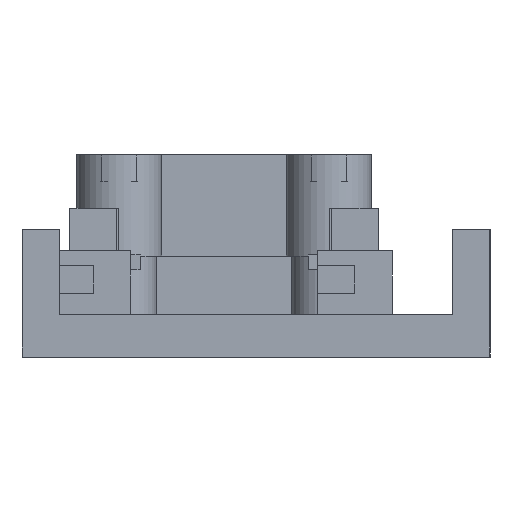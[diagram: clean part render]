
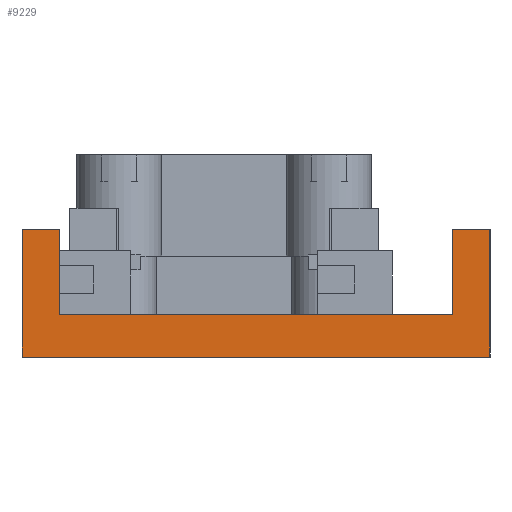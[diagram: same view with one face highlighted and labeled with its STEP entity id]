
A CAD part, left-side view. The second image highlights one B-rep face of the part: STEP entity #9229.
In plain terms, the highlighted planar face has unit normal (-1, 0, 0).
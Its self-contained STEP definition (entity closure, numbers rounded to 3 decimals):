
#52 = VERTEX_POINT('',#53);
#53 = CARTESIAN_POINT('',(-51.5,-1.1,0.));
#62 = PLANE('',#63);
#63 = AXIS2_PLACEMENT_3D('',#64,#65,#66);
#64 = CARTESIAN_POINT('',(-36.613,-1.1,0.));
#65 = DIRECTION('',(-0.,1.,0.));
#66 = DIRECTION('',(0.,0.,1.));
#74 = PLANE('',#75);
#75 = AXIS2_PLACEMENT_3D('',#76,#77,#78);
#76 = CARTESIAN_POINT('',(-36.613,-1.1,0.));
#77 = DIRECTION('',(0.,0.,1.));
#78 = DIRECTION('',(1.,0.,-0.));
#86 = EDGE_CURVE('',#87,#52,#89,.T.);
#87 = VERTEX_POINT('',#88);
#88 = CARTESIAN_POINT('',(-51.5,-1.1,12.));
#89 = SURFACE_CURVE('',#90,(#94,#101),.PCURVE_S1.);
#90 = LINE('',#91,#92);
#91 = CARTESIAN_POINT('',(-51.5,-1.1,12.));
#92 = VECTOR('',#93,1.);
#93 = DIRECTION('',(0.,0.,-1.));
#94 = PCURVE('',#62,#95);
#95 = DEFINITIONAL_REPRESENTATION('',(#96),#100);
#96 = LINE('',#97,#98);
#97 = CARTESIAN_POINT('',(12.,-14.888));
#98 = VECTOR('',#99,1.);
#99 = DIRECTION('',(-1.,0.));
#100 = ( GEOMETRIC_REPRESENTATION_CONTEXT(2) 
PARAMETRIC_REPRESENTATION_CONTEXT() REPRESENTATION_CONTEXT('2D SPACE',''
  ) );
#101 = PCURVE('',#102,#107);
#102 = PLANE('',#103);
#103 = AXIS2_PLACEMENT_3D('',#104,#105,#106);
#104 = CARTESIAN_POINT('',(-51.5,-1.1,0.));
#105 = DIRECTION('',(1.,0.,-0.));
#106 = DIRECTION('',(0.,0.,1.));
#107 = DEFINITIONAL_REPRESENTATION('',(#108),#112);
#108 = LINE('',#109,#110);
#109 = CARTESIAN_POINT('',(12.,0.));
#110 = VECTOR('',#111,1.);
#111 = DIRECTION('',(-1.,0.));
#112 = ( GEOMETRIC_REPRESENTATION_CONTEXT(2) 
PARAMETRIC_REPRESENTATION_CONTEXT() REPRESENTATION_CONTEXT('2D SPACE',''
  ) );
#130 = PLANE('',#131);
#131 = AXIS2_PLACEMENT_3D('',#132,#133,#134);
#132 = CARTESIAN_POINT('',(-36.613,-1.1,12.));
#133 = DIRECTION('',(0.,0.,1.));
#134 = DIRECTION('',(1.,0.,-0.));
#186 = PLANE('',#187);
#187 = AXIS2_PLACEMENT_3D('',#188,#189,#190);
#188 = CARTESIAN_POINT('',(-51.5,-1.1,4.));
#189 = DIRECTION('',(0.,0.,1.));
#190 = DIRECTION('',(1.,0.,-0.));
#228 = VERTEX_POINT('',#229);
#229 = CARTESIAN_POINT('',(-51.5,42.9,0.));
#245 = PLANE('',#246);
#246 = AXIS2_PLACEMENT_3D('',#247,#248,#249);
#247 = CARTESIAN_POINT('',(-36.613,42.9,0.));
#248 = DIRECTION('',(-0.,1.,0.));
#249 = DIRECTION('',(0.,0.,1.));
#257 = EDGE_CURVE('',#52,#228,#258,.T.);
#258 = SURFACE_CURVE('',#259,(#263,#270),.PCURVE_S1.);
#259 = LINE('',#260,#261);
#260 = CARTESIAN_POINT('',(-51.5,-1.1,0.));
#261 = VECTOR('',#262,1.);
#262 = DIRECTION('',(-0.,1.,0.));
#263 = PCURVE('',#74,#264);
#264 = DEFINITIONAL_REPRESENTATION('',(#265),#269);
#265 = LINE('',#266,#267);
#266 = CARTESIAN_POINT('',(-14.888,0.));
#267 = VECTOR('',#268,1.);
#268 = DIRECTION('',(0.,1.));
#269 = ( GEOMETRIC_REPRESENTATION_CONTEXT(2) 
PARAMETRIC_REPRESENTATION_CONTEXT() REPRESENTATION_CONTEXT('2D SPACE',''
  ) );
#270 = PCURVE('',#102,#271);
#271 = DEFINITIONAL_REPRESENTATION('',(#272),#276);
#272 = LINE('',#273,#274);
#273 = CARTESIAN_POINT('',(0.,0.));
#274 = VECTOR('',#275,1.);
#275 = DIRECTION('',(0.,-1.));
#276 = ( GEOMETRIC_REPRESENTATION_CONTEXT(2) 
PARAMETRIC_REPRESENTATION_CONTEXT() REPRESENTATION_CONTEXT('2D SPACE',''
  ) );
#9031 = EDGE_CURVE('',#228,#9032,#9034,.T.);
#9032 = VERTEX_POINT('',#9033);
#9033 = CARTESIAN_POINT('',(-51.5,42.9,12.));
#9034 = SURFACE_CURVE('',#9035,(#9039,#9046),.PCURVE_S1.);
#9035 = LINE('',#9036,#9037);
#9036 = CARTESIAN_POINT('',(-51.5,42.9,0.));
#9037 = VECTOR('',#9038,1.);
#9038 = DIRECTION('',(0.,0.,1.));
#9039 = PCURVE('',#245,#9040);
#9040 = DEFINITIONAL_REPRESENTATION('',(#9041),#9045);
#9041 = LINE('',#9042,#9043);
#9042 = CARTESIAN_POINT('',(0.,-14.888));
#9043 = VECTOR('',#9044,1.);
#9044 = DIRECTION('',(1.,0.));
#9045 = ( GEOMETRIC_REPRESENTATION_CONTEXT(2) 
PARAMETRIC_REPRESENTATION_CONTEXT() REPRESENTATION_CONTEXT('2D SPACE',''
  ) );
#9046 = PCURVE('',#102,#9047);
#9047 = DEFINITIONAL_REPRESENTATION('',(#9048),#9052);
#9048 = LINE('',#9049,#9050);
#9049 = CARTESIAN_POINT('',(0.,-44.));
#9050 = VECTOR('',#9051,1.);
#9051 = DIRECTION('',(1.,0.));
#9052 = ( GEOMETRIC_REPRESENTATION_CONTEXT(2) 
PARAMETRIC_REPRESENTATION_CONTEXT() REPRESENTATION_CONTEXT('2D SPACE',''
  ) );
#9070 = PLANE('',#9071);
#9071 = AXIS2_PLACEMENT_3D('',#9072,#9073,#9074);
#9072 = CARTESIAN_POINT('',(-36.613,39.4,12.));
#9073 = DIRECTION('',(0.,0.,1.));
#9074 = DIRECTION('',(1.,0.,-0.));
#9157 = EDGE_CURVE('',#87,#9158,#9160,.T.);
#9158 = VERTEX_POINT('',#9159);
#9159 = CARTESIAN_POINT('',(-51.5,2.4,12.));
#9160 = SURFACE_CURVE('',#9161,(#9165,#9172),.PCURVE_S1.);
#9161 = LINE('',#9162,#9163);
#9162 = CARTESIAN_POINT('',(-51.5,-1.1,12.));
#9163 = VECTOR('',#9164,1.);
#9164 = DIRECTION('',(-0.,1.,0.));
#9165 = PCURVE('',#130,#9166);
#9166 = DEFINITIONAL_REPRESENTATION('',(#9167),#9171);
#9167 = LINE('',#9168,#9169);
#9168 = CARTESIAN_POINT('',(-14.888,0.));
#9169 = VECTOR('',#9170,1.);
#9170 = DIRECTION('',(0.,1.));
#9171 = ( GEOMETRIC_REPRESENTATION_CONTEXT(2) 
PARAMETRIC_REPRESENTATION_CONTEXT() REPRESENTATION_CONTEXT('2D SPACE',''
  ) );
#9172 = PCURVE('',#102,#9173);
#9173 = DEFINITIONAL_REPRESENTATION('',(#9174),#9178);
#9174 = LINE('',#9175,#9176);
#9175 = CARTESIAN_POINT('',(12.,0.));
#9176 = VECTOR('',#9177,1.);
#9177 = DIRECTION('',(0.,-1.));
#9178 = ( GEOMETRIC_REPRESENTATION_CONTEXT(2) 
PARAMETRIC_REPRESENTATION_CONTEXT() REPRESENTATION_CONTEXT('2D SPACE',''
  ) );
#9218 = PLANE('',#9219);
#9219 = AXIS2_PLACEMENT_3D('',#9220,#9221,#9222);
#9220 = CARTESIAN_POINT('',(-36.613,2.4,4.));
#9221 = DIRECTION('',(-0.,1.,0.));
#9222 = DIRECTION('',(0.,0.,1.));
#9229 = ADVANCED_FACE('',(#9230),#102,.F.);
#9230 = FACE_BOUND('',#9231,.F.);
#9231 = EDGE_LOOP('',(#9232,#9233,#9234,#9257,#9285,#9308,#9329,#9330));
#9232 = ORIENTED_EDGE('',*,*,#257,.T.);
#9233 = ORIENTED_EDGE('',*,*,#9031,.T.);
#9234 = ORIENTED_EDGE('',*,*,#9235,.F.);
#9235 = EDGE_CURVE('',#9236,#9032,#9238,.T.);
#9236 = VERTEX_POINT('',#9237);
#9237 = CARTESIAN_POINT('',(-51.5,39.4,12.));
#9238 = SURFACE_CURVE('',#9239,(#9243,#9250),.PCURVE_S1.);
#9239 = LINE('',#9240,#9241);
#9240 = CARTESIAN_POINT('',(-51.5,39.4,12.));
#9241 = VECTOR('',#9242,1.);
#9242 = DIRECTION('',(-0.,1.,0.));
#9243 = PCURVE('',#102,#9244);
#9244 = DEFINITIONAL_REPRESENTATION('',(#9245),#9249);
#9245 = LINE('',#9246,#9247);
#9246 = CARTESIAN_POINT('',(12.,-40.5));
#9247 = VECTOR('',#9248,1.);
#9248 = DIRECTION('',(0.,-1.));
#9249 = ( GEOMETRIC_REPRESENTATION_CONTEXT(2) 
PARAMETRIC_REPRESENTATION_CONTEXT() REPRESENTATION_CONTEXT('2D SPACE',''
  ) );
#9250 = PCURVE('',#9070,#9251);
#9251 = DEFINITIONAL_REPRESENTATION('',(#9252),#9256);
#9252 = LINE('',#9253,#9254);
#9253 = CARTESIAN_POINT('',(-14.888,0.));
#9254 = VECTOR('',#9255,1.);
#9255 = DIRECTION('',(0.,1.));
#9256 = ( GEOMETRIC_REPRESENTATION_CONTEXT(2) 
PARAMETRIC_REPRESENTATION_CONTEXT() REPRESENTATION_CONTEXT('2D SPACE',''
  ) );
#9257 = ORIENTED_EDGE('',*,*,#9258,.F.);
#9258 = EDGE_CURVE('',#9259,#9236,#9261,.T.);
#9259 = VERTEX_POINT('',#9260);
#9260 = CARTESIAN_POINT('',(-51.5,39.4,4.));
#9261 = SURFACE_CURVE('',#9262,(#9266,#9273),.PCURVE_S1.);
#9262 = LINE('',#9263,#9264);
#9263 = CARTESIAN_POINT('',(-51.5,39.4,4.));
#9264 = VECTOR('',#9265,1.);
#9265 = DIRECTION('',(0.,0.,1.));
#9266 = PCURVE('',#102,#9267);
#9267 = DEFINITIONAL_REPRESENTATION('',(#9268),#9272);
#9268 = LINE('',#9269,#9270);
#9269 = CARTESIAN_POINT('',(4.,-40.5));
#9270 = VECTOR('',#9271,1.);
#9271 = DIRECTION('',(1.,0.));
#9272 = ( GEOMETRIC_REPRESENTATION_CONTEXT(2) 
PARAMETRIC_REPRESENTATION_CONTEXT() REPRESENTATION_CONTEXT('2D SPACE',''
  ) );
#9273 = PCURVE('',#9274,#9279);
#9274 = PLANE('',#9275);
#9275 = AXIS2_PLACEMENT_3D('',#9276,#9277,#9278);
#9276 = CARTESIAN_POINT('',(-51.5,39.4,4.));
#9277 = DIRECTION('',(-0.,1.,0.));
#9278 = DIRECTION('',(0.,0.,1.));
#9279 = DEFINITIONAL_REPRESENTATION('',(#9280),#9284);
#9280 = LINE('',#9281,#9282);
#9281 = CARTESIAN_POINT('',(0.,0.));
#9282 = VECTOR('',#9283,1.);
#9283 = DIRECTION('',(1.,0.));
#9284 = ( GEOMETRIC_REPRESENTATION_CONTEXT(2) 
PARAMETRIC_REPRESENTATION_CONTEXT() REPRESENTATION_CONTEXT('2D SPACE',''
  ) );
#9285 = ORIENTED_EDGE('',*,*,#9286,.F.);
#9286 = EDGE_CURVE('',#9287,#9259,#9289,.T.);
#9287 = VERTEX_POINT('',#9288);
#9288 = CARTESIAN_POINT('',(-51.5,2.4,4.));
#9289 = SURFACE_CURVE('',#9290,(#9294,#9301),.PCURVE_S1.);
#9290 = LINE('',#9291,#9292);
#9291 = CARTESIAN_POINT('',(-51.5,-1.1,4.));
#9292 = VECTOR('',#9293,1.);
#9293 = DIRECTION('',(-0.,1.,0.));
#9294 = PCURVE('',#102,#9295);
#9295 = DEFINITIONAL_REPRESENTATION('',(#9296),#9300);
#9296 = LINE('',#9297,#9298);
#9297 = CARTESIAN_POINT('',(4.,0.));
#9298 = VECTOR('',#9299,1.);
#9299 = DIRECTION('',(0.,-1.));
#9300 = ( GEOMETRIC_REPRESENTATION_CONTEXT(2) 
PARAMETRIC_REPRESENTATION_CONTEXT() REPRESENTATION_CONTEXT('2D SPACE',''
  ) );
#9301 = PCURVE('',#186,#9302);
#9302 = DEFINITIONAL_REPRESENTATION('',(#9303),#9307);
#9303 = LINE('',#9304,#9305);
#9304 = CARTESIAN_POINT('',(0.,0.));
#9305 = VECTOR('',#9306,1.);
#9306 = DIRECTION('',(0.,1.));
#9307 = ( GEOMETRIC_REPRESENTATION_CONTEXT(2) 
PARAMETRIC_REPRESENTATION_CONTEXT() REPRESENTATION_CONTEXT('2D SPACE',''
  ) );
#9308 = ORIENTED_EDGE('',*,*,#9309,.T.);
#9309 = EDGE_CURVE('',#9287,#9158,#9310,.T.);
#9310 = SURFACE_CURVE('',#9311,(#9315,#9322),.PCURVE_S1.);
#9311 = LINE('',#9312,#9313);
#9312 = CARTESIAN_POINT('',(-51.5,2.4,4.));
#9313 = VECTOR('',#9314,1.);
#9314 = DIRECTION('',(0.,0.,1.));
#9315 = PCURVE('',#102,#9316);
#9316 = DEFINITIONAL_REPRESENTATION('',(#9317),#9321);
#9317 = LINE('',#9318,#9319);
#9318 = CARTESIAN_POINT('',(4.,-3.5));
#9319 = VECTOR('',#9320,1.);
#9320 = DIRECTION('',(1.,0.));
#9321 = ( GEOMETRIC_REPRESENTATION_CONTEXT(2) 
PARAMETRIC_REPRESENTATION_CONTEXT() REPRESENTATION_CONTEXT('2D SPACE',''
  ) );
#9322 = PCURVE('',#9218,#9323);
#9323 = DEFINITIONAL_REPRESENTATION('',(#9324),#9328);
#9324 = LINE('',#9325,#9326);
#9325 = CARTESIAN_POINT('',(0.,-14.888));
#9326 = VECTOR('',#9327,1.);
#9327 = DIRECTION('',(1.,0.));
#9328 = ( GEOMETRIC_REPRESENTATION_CONTEXT(2) 
PARAMETRIC_REPRESENTATION_CONTEXT() REPRESENTATION_CONTEXT('2D SPACE',''
  ) );
#9329 = ORIENTED_EDGE('',*,*,#9157,.F.);
#9330 = ORIENTED_EDGE('',*,*,#86,.T.);
